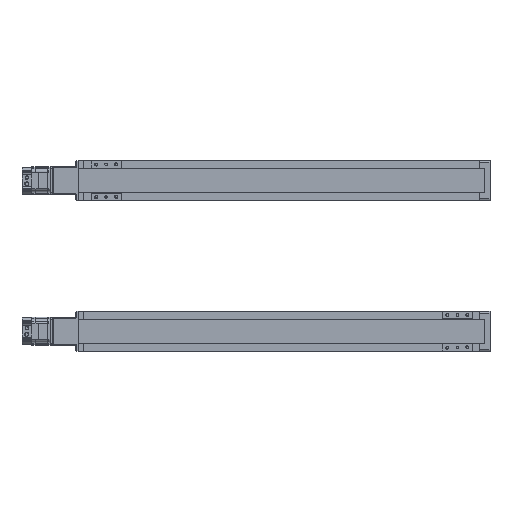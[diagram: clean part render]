
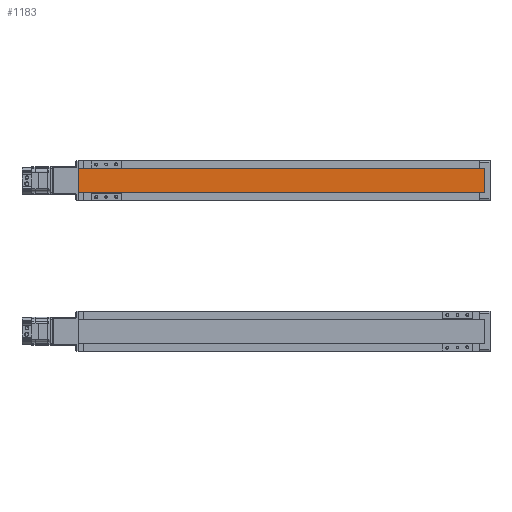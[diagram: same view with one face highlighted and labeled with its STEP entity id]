
A CAD part, top view. The second image highlights one B-rep face of the part: STEP entity #1183.
In plain terms, the highlighted planar face has unit normal (0, 0, 1).
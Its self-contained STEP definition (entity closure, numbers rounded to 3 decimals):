
#612 = PLANE('',#613);
#613 = AXIS2_PLACEMENT_3D('',#614,#615,#616);
#614 = CARTESIAN_POINT('',(1286.173,-345.318,234.2));
#615 = DIRECTION('',(-1.,0.,0.));
#616 = DIRECTION('',(0.,-1.,0.));
#666 = PLANE('',#667);
#667 = AXIS2_PLACEMENT_3D('',#668,#669,#670);
#668 = CARTESIAN_POINT('',(476.173,-345.318,234.2));
#669 = DIRECTION('',(-1.,0.,0.));
#670 = DIRECTION('',(0.,-1.,0.));
#721 = PLANE('',#722);
#722 = AXIS2_PLACEMENT_3D('',#723,#724,#725);
#723 = CARTESIAN_POINT('',(1286.173,-393.318,234.2));
#724 = DIRECTION('',(0.,1.,0.));
#725 = DIRECTION('',(-1.,0.,0.));
#759 = VERTEX_POINT('',#760);
#760 = CARTESIAN_POINT('',(1286.173,-393.318,241.7));
#781 = EDGE_CURVE('',#782,#759,#784,.T.);
#782 = VERTEX_POINT('',#783);
#783 = CARTESIAN_POINT('',(476.173,-393.318,241.7));
#784 = SURFACE_CURVE('',#785,(#789,#796),.PCURVE_S1.);
#785 = LINE('',#786,#787);
#786 = CARTESIAN_POINT('',(881.173,-393.318,241.7));
#787 = VECTOR('',#788,1.);
#788 = DIRECTION('',(1.,0.,0.));
#789 = PCURVE('',#721,#790);
#790 = DEFINITIONAL_REPRESENTATION('',(#791),#795);
#791 = LINE('',#792,#793);
#792 = CARTESIAN_POINT('',(405.,7.5));
#793 = VECTOR('',#794,1.);
#794 = DIRECTION('',(-1.,0.));
#795 = ( GEOMETRIC_REPRESENTATION_CONTEXT(2) 
PARAMETRIC_REPRESENTATION_CONTEXT() REPRESENTATION_CONTEXT('2D SPACE',''
  ) );
#796 = PCURVE('',#797,#802);
#797 = PLANE('',#798);
#798 = AXIS2_PLACEMENT_3D('',#799,#800,#801);
#799 = CARTESIAN_POINT('',(476.173,-345.318,241.7));
#800 = DIRECTION('',(0.,0.,-1.));
#801 = DIRECTION('',(1.,0.,0.));
#802 = DEFINITIONAL_REPRESENTATION('',(#803),#807);
#803 = LINE('',#804,#805);
#804 = CARTESIAN_POINT('',(405.,48.));
#805 = VECTOR('',#806,1.);
#806 = DIRECTION('',(1.,0.));
#807 = ( GEOMETRIC_REPRESENTATION_CONTEXT(2) 
PARAMETRIC_REPRESENTATION_CONTEXT() REPRESENTATION_CONTEXT('2D SPACE',''
  ) );
#936 = EDGE_CURVE('',#782,#937,#939,.T.);
#937 = VERTEX_POINT('',#938);
#938 = CARTESIAN_POINT('',(476.173,-345.318,241.7));
#939 = SURFACE_CURVE('',#940,(#944,#951),.PCURVE_S1.);
#940 = LINE('',#941,#942);
#941 = CARTESIAN_POINT('',(476.173,-345.818,241.7));
#942 = VECTOR('',#943,1.);
#943 = DIRECTION('',(0.,1.,0.));
#944 = PCURVE('',#666,#945);
#945 = DEFINITIONAL_REPRESENTATION('',(#946),#950);
#946 = LINE('',#947,#948);
#947 = CARTESIAN_POINT('',(0.5,7.5));
#948 = VECTOR('',#949,1.);
#949 = DIRECTION('',(-1.,0.));
#950 = ( GEOMETRIC_REPRESENTATION_CONTEXT(2) 
PARAMETRIC_REPRESENTATION_CONTEXT() REPRESENTATION_CONTEXT('2D SPACE',''
  ) );
#951 = PCURVE('',#797,#952);
#952 = DEFINITIONAL_REPRESENTATION('',(#953),#957);
#953 = LINE('',#954,#955);
#954 = CARTESIAN_POINT('',(0.,0.5));
#955 = VECTOR('',#956,1.);
#956 = DIRECTION('',(0.,-1.));
#957 = ( GEOMETRIC_REPRESENTATION_CONTEXT(2) 
PARAMETRIC_REPRESENTATION_CONTEXT() REPRESENTATION_CONTEXT('2D SPACE',''
  ) );
#975 = PLANE('',#976);
#976 = AXIS2_PLACEMENT_3D('',#977,#978,#979);
#977 = CARTESIAN_POINT('',(476.173,-345.318,234.2));
#978 = DIRECTION('',(0.,-1.,0.));
#979 = DIRECTION('',(1.,0.,0.));
#1063 = VERTEX_POINT('',#1064);
#1064 = CARTESIAN_POINT('',(1286.173,-345.318,241.7));
#1085 = EDGE_CURVE('',#1063,#759,#1086,.T.);
#1086 = SURFACE_CURVE('',#1087,(#1091,#1098),.PCURVE_S1.);
#1087 = LINE('',#1088,#1089);
#1088 = CARTESIAN_POINT('',(1286.173,-392.818,241.7));
#1089 = VECTOR('',#1090,1.);
#1090 = DIRECTION('',(0.,-1.,0.));
#1091 = PCURVE('',#612,#1092);
#1092 = DEFINITIONAL_REPRESENTATION('',(#1093),#1097);
#1093 = LINE('',#1094,#1095);
#1094 = CARTESIAN_POINT('',(47.5,7.5));
#1095 = VECTOR('',#1096,1.);
#1096 = DIRECTION('',(1.,0.));
#1097 = ( GEOMETRIC_REPRESENTATION_CONTEXT(2) 
PARAMETRIC_REPRESENTATION_CONTEXT() REPRESENTATION_CONTEXT('2D SPACE',''
  ) );
#1098 = PCURVE('',#797,#1099);
#1099 = DEFINITIONAL_REPRESENTATION('',(#1100),#1104);
#1100 = LINE('',#1101,#1102);
#1101 = CARTESIAN_POINT('',(810.,47.5));
#1102 = VECTOR('',#1103,1.);
#1103 = DIRECTION('',(0.,1.));
#1104 = ( GEOMETRIC_REPRESENTATION_CONTEXT(2) 
PARAMETRIC_REPRESENTATION_CONTEXT() REPRESENTATION_CONTEXT('2D SPACE',''
  ) );
#1160 = EDGE_CURVE('',#937,#1063,#1161,.T.);
#1161 = SURFACE_CURVE('',#1162,(#1166,#1173),.PCURVE_S1.);
#1162 = LINE('',#1163,#1164);
#1163 = CARTESIAN_POINT('',(881.173,-345.318,241.7));
#1164 = VECTOR('',#1165,1.);
#1165 = DIRECTION('',(1.,0.,0.));
#1166 = PCURVE('',#975,#1167);
#1167 = DEFINITIONAL_REPRESENTATION('',(#1168),#1172);
#1168 = LINE('',#1169,#1170);
#1169 = CARTESIAN_POINT('',(405.,7.5));
#1170 = VECTOR('',#1171,1.);
#1171 = DIRECTION('',(1.,0.));
#1172 = ( GEOMETRIC_REPRESENTATION_CONTEXT(2) 
PARAMETRIC_REPRESENTATION_CONTEXT() REPRESENTATION_CONTEXT('2D SPACE',''
  ) );
#1173 = PCURVE('',#797,#1174);
#1174 = DEFINITIONAL_REPRESENTATION('',(#1175),#1179);
#1175 = LINE('',#1176,#1177);
#1176 = CARTESIAN_POINT('',(405.,0.));
#1177 = VECTOR('',#1178,1.);
#1178 = DIRECTION('',(1.,0.));
#1179 = ( GEOMETRIC_REPRESENTATION_CONTEXT(2) 
PARAMETRIC_REPRESENTATION_CONTEXT() REPRESENTATION_CONTEXT('2D SPACE',''
  ) );
#1183 = ADVANCED_FACE('',(#1184),#797,.F.);
#1184 = FACE_BOUND('',#1185,.T.);
#1185 = EDGE_LOOP('',(#1186,#1187,#1188,#1189));
#1186 = ORIENTED_EDGE('',*,*,#1085,.F.);
#1187 = ORIENTED_EDGE('',*,*,#1160,.F.);
#1188 = ORIENTED_EDGE('',*,*,#936,.F.);
#1189 = ORIENTED_EDGE('',*,*,#781,.T.);
